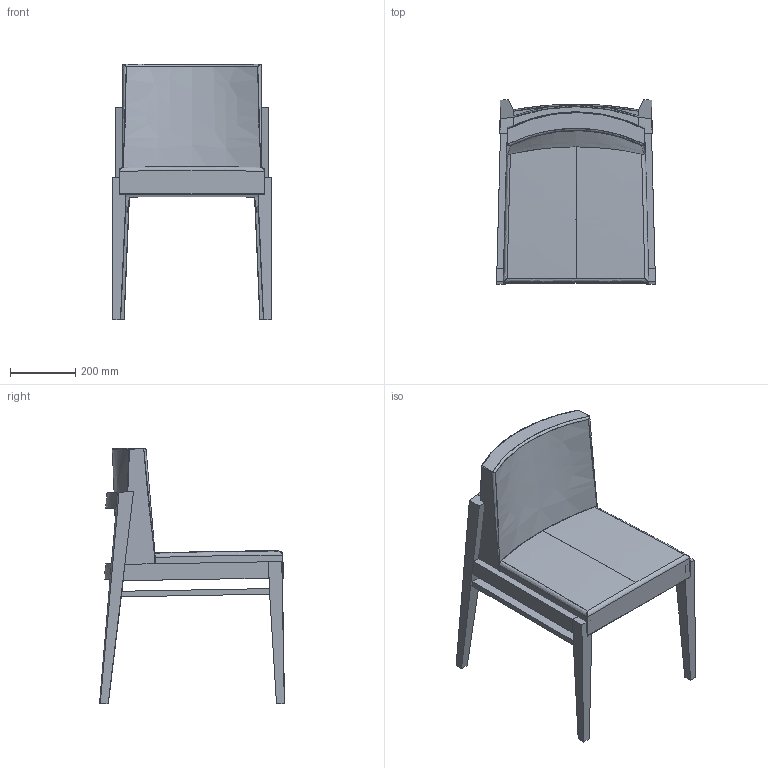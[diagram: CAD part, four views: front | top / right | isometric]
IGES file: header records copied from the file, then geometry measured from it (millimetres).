
Start section: SolidWorks IGES file using analytic representation for surfaces
Global section: file name: C:\Users\Adao\Documents\Trab Adao\Desenho técnico PRODUÇÃO\J M S\SERENA\Linha SERENA (3D)\Cadeira SERENA M-52.IGS; native system: SolidWorks 2012; preprocessor: SolidWorks 2012; author: Adao; date: 121219.172129; units: millimetre
Bounding box: 485.76 x 565.72 x 781.72 mm (x, y, z)
Surface area: 1947296.9 mm2 (no closed solid volume)
Topology: 0 solids, 0 shells, 144 faces, 1172 edges, 1165 vertices
Faces by surface type: bspline 109, revolution 35
